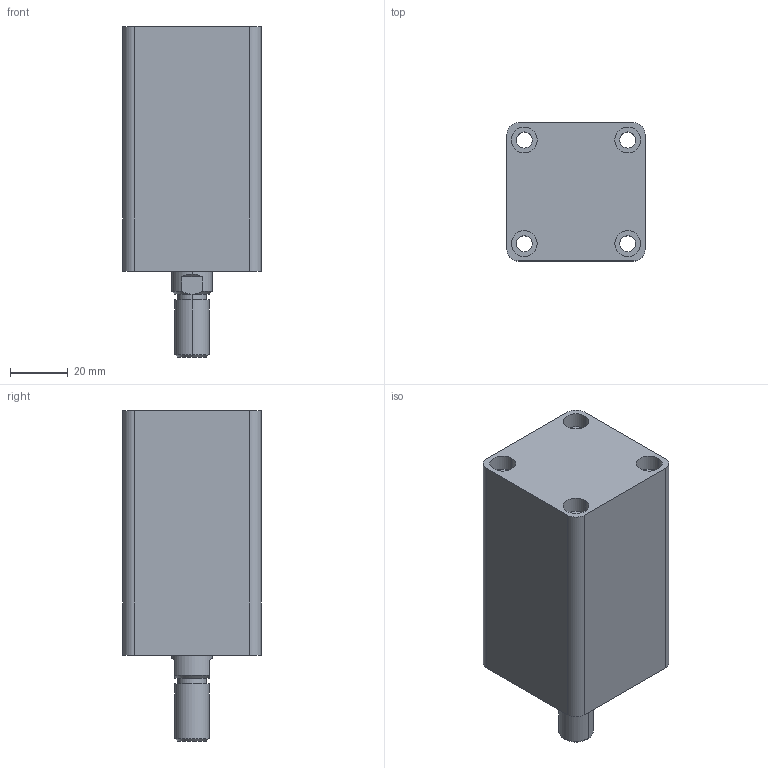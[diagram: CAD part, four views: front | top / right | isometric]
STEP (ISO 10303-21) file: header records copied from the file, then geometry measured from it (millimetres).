
FILE_DESCRIPTION (( 'STEP AP203' ), '1' );
FILE_NAME ('HTB-SD25-40W.STEP', '2019-10-07T06:01:16', ( '微软用户' ), ( '微软中国' ), 'SwSTEP 2.0', 'SolidWorks 2012', '' );
FILE_SCHEMA (( 'CONFIG_CONTROL_DESIGN' ));
Length unit declared in the file: millimetre
Products named in the file (3): HTB-SD25-40W活塞杆; HTB-SD25-40W; HTB-SD25-40掛极
Assembly tree (2 placements, depth 2):
  HTB-SD25-40W
    HTB-SD25-40掛极
    HTB-SD25-40W活塞杆
Bounding box: 48 x 48 x 115 mm (x, y, z)
Volume: 173655.3 mm3; surface area: 39023.1 mm2
Topology: 2 solids, 2 shells, 87 faces, 188 edges, 122 vertices
Faces by surface type: cylinder 44, plane 29, cone 8, torus 6
Entity records: 2759 total; most frequent: DIRECTION 476, CARTESIAN_POINT 446, ORIENTED_EDGE 376, AXIS2_PLACEMENT_3D 204, EDGE_CURVE 188, VERTEX_POINT 122, CIRCLE 112, EDGE_LOOP 112
